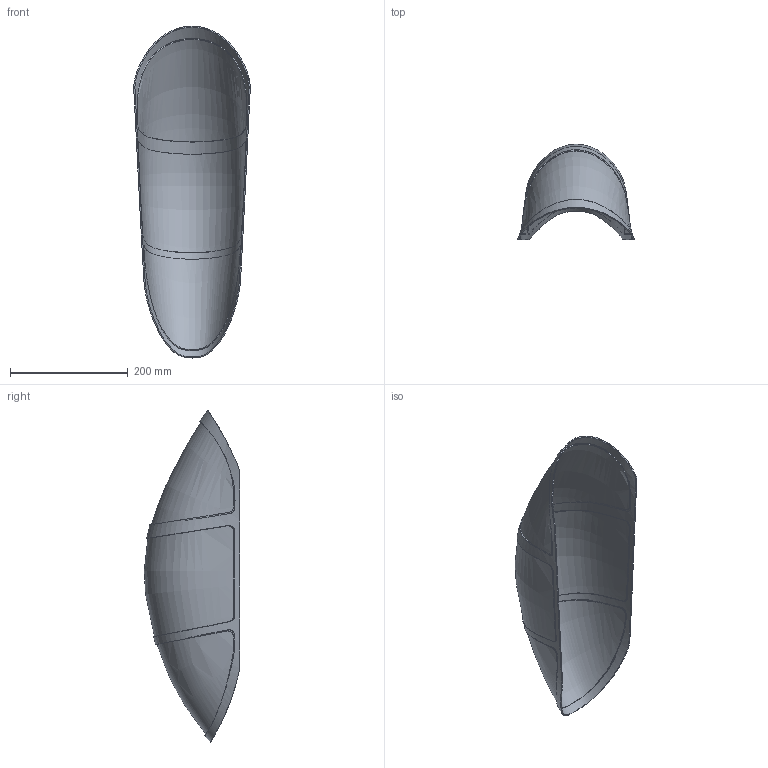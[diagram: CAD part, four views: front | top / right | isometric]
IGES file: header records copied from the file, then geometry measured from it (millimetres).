
Start section: SolidWorks IGES file using analytic representation for surfaces
Global section: file name: E:\Users\Åâãåíèé\Desktop\Ñàìîë¸òû\ßê-55\Äëÿ ñòàíêà\Ôîíàðü\ôîíàðü.IGS; native system: SolidWorks 2011; preprocessor: SolidWorks 2011; author: Åâãåíèé; date: 110524.230515; units: millimetre
Bounding box: 198.37 x 162.13 x 563.94 mm (x, y, z)
Surface area: 377857.2 mm2 (no closed solid volume)
Topology: 0 solids, 0 shells, 53 faces, 3301 edges, 3301 vertices
Faces by surface type: bspline 33, revolution 20
